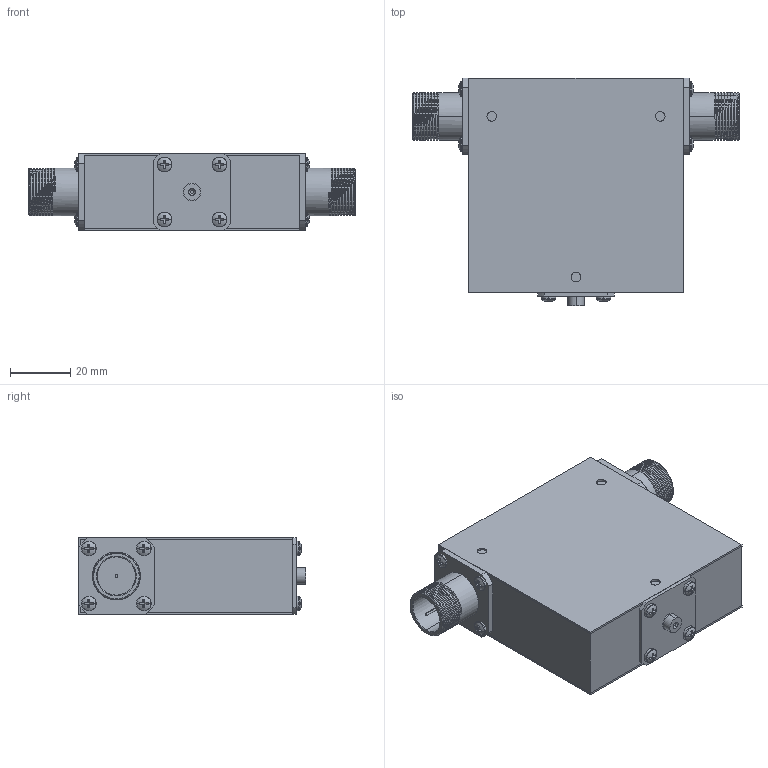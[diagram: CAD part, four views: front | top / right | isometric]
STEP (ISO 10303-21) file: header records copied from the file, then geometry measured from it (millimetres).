
FILE_DESCRIPTION (( 'STEP AP214' ), '1' );
FILE_NAME ('Package 20 Iso FF Type-N.step', '2021-12-01T20:59:47', ( '' ), ( '' ), 'SwSTEP 2.0', 'SolidWorks 2016', '' );
FILE_SCHEMA (( 'AUTOMOTIVE_DESIGN' ));
Length unit declared in the file: inch
Products named in the file (6): Package Size 20; Delta Type N Female, 1.0in flange; 1 inch; Package 20 Iso FF Type-N; pan cross head_ai_CR-PHMS 0.099-56x0.125x0.125-N; Package 20
Assembly tree (17 placements, depth 2):
  Package 20 Iso FF Type-N
    Package Size 20
    Package 20
    pan cross head_ai_CR-PHMS 0.099-56x0.125x0.125-N  x12
    1 inch
    Delta Type N Female, 1.0in flange  x2
Bounding box: 108.46 x 75.56 x 25.4 mm (x, y, z)
Volume: 134506.3 mm3; surface area: 49679 mm2
Topology: 17 solids, 17 shells, 440 faces, 1026 edges, 640 vertices
Faces by surface type: plane 226, cylinder 146, torus 30, sphere 24, cone 10, bspline 4
Entity records: 5385 total; most frequent: CARTESIAN_POINT 1727, DIRECTION 745, ORIENTED_EDGE 678, EDGE_CURVE 339, AXIS2_PLACEMENT_3D 296, VERTEX_POINT 220, EDGE_LOOP 171, VECTOR 153
